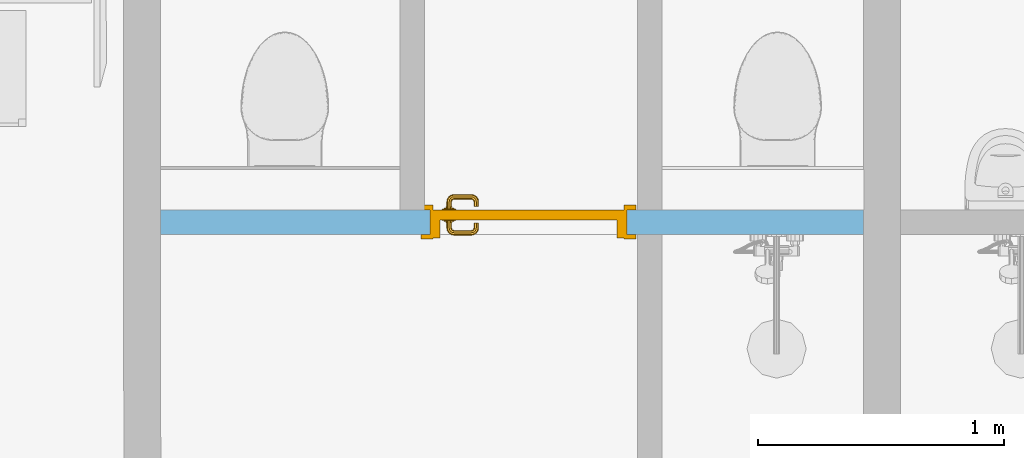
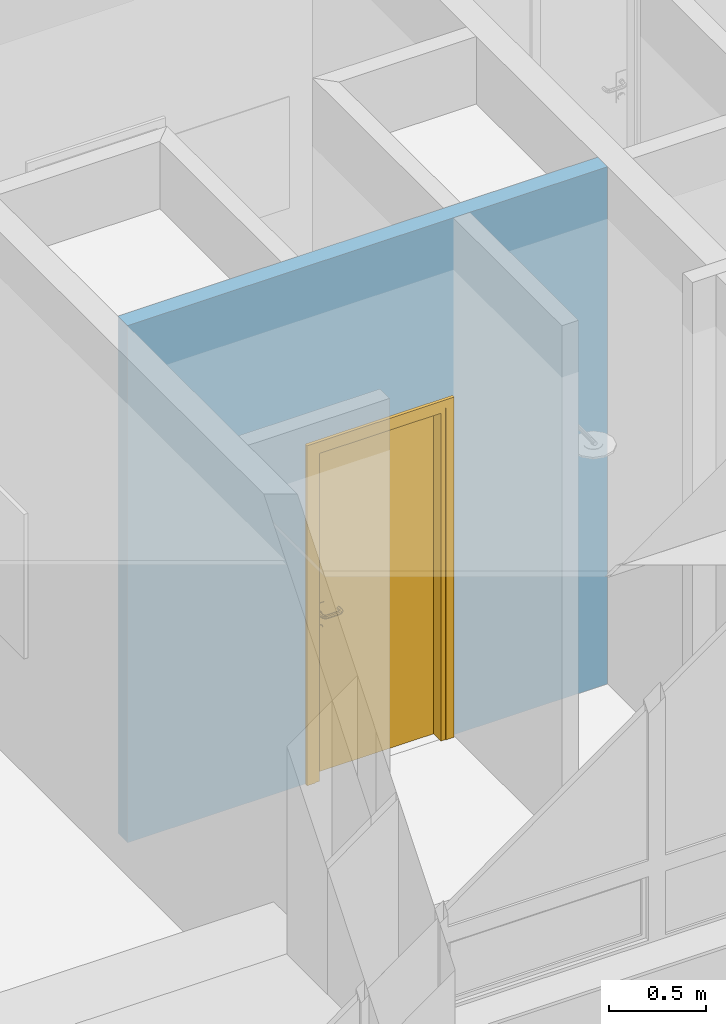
# One storey, part 58 of 194: 1 door, 1 opening, plus 1 element that does not belong to this part.
"""IFC2X3 building model written with IfcOpenShell, lengths in millimetres."""

from ifc_helpers import new_model, entity, si_unit, converted_unit, derived_unit, money_unit, direction, frame, origin_with_axes, origin_2d_with_axis, place, context, subcontext, project, spatial, polyline, rectangle, outline, extrude, open_shell, faceted_brep, surface_model, material, layer, layer_set, layer_usage, type_object, element, fill, save


model = new_model("IFC2X3")

# Units and contexts
model_context = context("Model", 3, precision=1e-05, world=origin_with_axes(), true_north=direction((0.0, 1.0)))
body_context = subcontext(model_context, "Body", "Model", "MODEL_VIEW")
ifc_project = project(units=[si_unit("LENGTHUNIT", "METRE", prefix="MILLI"), si_unit("AREAUNIT", "SQUARE_METRE"), si_unit("VOLUMEUNIT", "CUBIC_METRE"), converted_unit("PLANEANGLEUNIT", "DEGREE", entity("IfcPlaneAngleMeasure", 0.0174532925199), si_unit("PLANEANGLEUNIT", "RADIAN"), dimensions=[0, 0, 0, 0, 0, 0, 0]), si_unit("SOLIDANGLEUNIT", "STERADIAN"), money_unit("EUR"), converted_unit("TIMEUNIT", "Year", entity("IfcTimeMeasure", 31556926.0), si_unit("TIMEUNIT", "SECOND"), dimensions=[0, 0, 1, 0, 0, 0, 0]), si_unit("MASSUNIT", "GRAM", prefix="KILO"), si_unit("THERMODYNAMICTEMPERATUREUNIT", "DEGREE_CELSIUS"), si_unit("LUMINOUSINTENSITYUNIT", "LUMEN"), si_unit("ENERGYUNIT", "JOULE", prefix="MEGA"), derived_unit("THERMALCONDUCTANCEUNIT", [(si_unit("POWERUNIT", "WATT"), 1), (si_unit("LENGTHUNIT", "METRE"), -1), (si_unit("THERMODYNAMICTEMPERATUREUNIT", "KELVIN"), -1)]), derived_unit("SPECIFICHEATCAPACITYUNIT", [(si_unit("ENERGYUNIT", "JOULE"), 1), (si_unit("MASSUNIT", "GRAM", prefix="KILO"), -1), (si_unit("THERMODYNAMICTEMPERATUREUNIT", "KELVIN"), -1)]), derived_unit("MASSDENSITYUNIT", [(si_unit("MASSUNIT", "GRAM", prefix="KILO"), 1), (si_unit("VOLUMEUNIT", "CUBIC_METRE"), -1)])], contexts=[model_context])

# Site, building, storey
site_placement = place(None, origin_with_axes())
site = spatial("IfcSite", under=ifc_project, at=site_placement, Name="Site", CompositionType="ELEMENT")
building_placement = place(site_placement, origin_with_axes())
building = spatial("IfcBuilding", under=site, at=building_placement, Name="Building", CompositionType="ELEMENT")
storey_placement = place(building_placement, frame((0.0, 0.0, 3000.0), z_axis=(0.0, 0.0, 1.0), x_axis=(1.0, 0.0, 0.0)))
storey = spatial("IfcBuildingStorey", under=building, at=storey_placement, Name="2 KORRUS", CompositionType="ELEMENT", Elevation=3000.0)

# Wall, opening, door
ifc_material = material(Name="Kivi -Ol.Olev Konstruktsioon")
ifc_layer = layer(ifc_material, 100.0, ventilated="UNKNOWN")
ifc_layer_set = layer_set([ifc_layer], Name="ol.olev ss 100")
ifc_layer_usage = layer_usage(ifc_layer_set, "AXIS2", "POSITIVE", 0.0)
wall_type = type_object("IfcWallType", Name="SW - 022", PredefinedType="NOTDEFINED")
wall_placement = place(storey_placement, frame((70155.2857435, 37544.6064086, 0.0), z_axis=(0.0, 0.0, 1.0), x_axis=(1.0, 0.0, 0.0)))
wall = element("IfcWallStandardCase", 1, at=wall_placement, inside=storey, type_object=wall_type, material=ifc_layer_usage, Name="ol.olev ss 100", context=body_context, shape_type="SweptSolid", body=[
    extrude(outline(polyline([(-5.68434188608e-10, 0.0), (2852.14219087, 0.0), (2852.14219087, 100.0), (-0.078647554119, 100.0), (-5.68434188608e-10, 0.0)])), origin_with_axes(), (0.0, 0.0, 1.0), 3250.0),
])
opening_placement = place(wall_placement, frame((1493.06581529, 0.0, 0.0), z_axis=(0.0, 0.0, 1.0), x_axis=(1.0, 0.0, 0.0)))
opening = element("IfcOpeningElement", 2, at=opening_placement, cuts=wall, Name="Siseuks * Door 22", context=body_context, shape_type="SweptSolid", body=[
    extrude(rectangle(XDim=800.0, YDim=2100.0, at=origin_2d_with_axis()), frame((0.0, -100.0, 1050.0), z_axis=(0.0, 1.0, 0.0), x_axis=(1.0, 0.0, 0.0)), (0.0, 0.0, 1.0), 300.000000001),
    extrude(rectangle(XDim=874.0, YDim=2137.0, at=origin_2d_with_axis()), frame((0.0, 0.0, 1068.5), z_axis=(0.0, 1.0, 0.0), x_axis=(1.0, 0.0, 0.0)), (0.0, 0.0, -1.0), 100.0),
    extrude(rectangle(XDim=874.0, YDim=2137.0, at=origin_2d_with_axis()), frame((0.0, 100.0, 1068.5), z_axis=(0.0, -1.0, 0.0), x_axis=(1.0, 0.0, 0.0)), (0.0, 0.0, -1.0), 100.0),
])
door_style = type_object("IfcDoorStyle", Name="SU-B232   800×2\xa0100", ConstructionType="NOTDEFINED", OperationType="SINGLE_SWING_RIGHT", ParameterTakesPrecedence=False, Sizeable=False)
door_placement = place(opening_placement, frame((-400.0, 0.0, 0.0), z_axis=(0.0, 0.0, 1.0), x_axis=(1.0, 0.0, 0.0)))
door = element("IfcDoor", 3, at=door_placement, inside=storey, type_object=door_style, Name="Siseuks * Door 22", OverallHeight=2100.0, OverallWidth=800.0, context=body_context, shape_type="SurfaceModel", body=[
    faceted_brep([(-37.0, -18.9999999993, 0.0), (-37.0, 0.0, 0.0), (13.0, 0.0, 0.0), (13.0, -18.9999999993, 0.0), (-37.0, -18.9999999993, 2137.0), (-37.0, 0.0, 2137.0), (13.0, 0.0, 2087.0), (13.0, -18.9999999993, 2087.0)], [[[0, 1, 2, 3]], [[4, 5, 1, 0]], [[1, 5, 6, 2]], [[3, 2, 6, 7]], [[0, 3, 7, 4]], [[7, 6, 5, 4]]]),
    faceted_brep([(837.0, -18.9999999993, 2137.0), (837.0, 0.0, 2137.0), (787.0, 0.0, 2087.0), (787.0, -18.9999999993, 2087.0), (837.0, -18.9999999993, 0.0), (837.0, 0.0, 0.0), (787.0, 0.0, 0.0), (787.0, -18.9999999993, 0.0)], [[[0, 1, 2, 3]], [[4, 5, 1, 0]], [[1, 5, 6, 2]], [[3, 2, 6, 7]], [[0, 3, 7, 4]], [[7, 6, 5, 4]]]),
    faceted_brep([(-37.0, -18.9999999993, 2137.0), (-37.0, 0.0, 2137.0), (13.0, 0.0, 2087.0), (13.0, -18.9999999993, 2087.0), (837.0, -18.9999999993, 2137.0), (837.0, 0.0, 2137.0), (787.0, 0.0, 2087.0), (787.0, -18.9999999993, 2087.0)], [[[0, 1, 2, 3]], [[4, 5, 1, 0]], [[1, 5, 6, 2]], [[3, 2, 6, 7]], [[0, 3, 7, 4]], [[7, 6, 5, 4]]]),
    faceted_brep([(-37.0, 119.000000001, 0.0), (13.0, 119.000000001, 0.0), (13.0, 100.0, 0.0), (-37.0, 100.0, 0.0), (-37.0, 119.000000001, 2137.0), (13.0, 119.000000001, 2087.0), (13.0, 100.0, 2087.0), (-37.0, 100.0, 2137.0)], [[[0, 1, 2, 3]], [[0, 4, 5, 1]], [[1, 5, 6, 2]], [[3, 2, 6, 7]], [[4, 0, 3, 7]], [[5, 4, 7, 6]]]),
    faceted_brep([(837.0, 119.000000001, 2137.0), (787.0, 119.000000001, 2087.0), (787.0, 100.0, 2087.0), (837.0, 100.0, 2137.0), (837.0, 119.000000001, 0.0), (787.0, 119.000000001, 0.0), (787.0, 100.0, 0.0), (837.0, 100.0, 0.0)], [[[0, 1, 2, 3]], [[0, 4, 5, 1]], [[1, 5, 6, 2]], [[3, 2, 6, 7]], [[4, 0, 3, 7]], [[5, 4, 7, 6]]]),
    faceted_brep([(-37.0, 119.000000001, 2137.0), (13.0, 119.000000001, 2087.0), (13.0, 100.0, 2087.0), (-37.0, 100.0, 2137.0), (837.0, 119.000000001, 2137.0), (787.0, 119.000000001, 2087.0), (787.0, 100.0, 2087.0), (837.0, 100.0, 2137.0)], [[[0, 1, 2, 3]], [[0, 4, 5, 1]], [[1, 5, 6, 2]], [[3, 2, 6, 7]], [[4, 0, 3, 7]], [[5, 4, 7, 6]]]),
    faceted_brep([(40.0, 60.0000000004, 0.0), (40.0, 60.0000000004, 2060.0), (40.0, -14.9999999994, 2060.0), (40.0, -14.9999999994, 0.0), (28.0, 60.0000000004, 2060.0), (28.0, 60.0000000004, 0.0), (28.0, 100.0, 2060.0), (0.0, 100.0, 2060.0), (0.0, -14.9999999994, 2060.0), (0.0, -14.9999999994, 0.0), (0.0, 100.0, 0.0), (28.0, 100.0, 0.0)], [[[0, 1, 2, 3]], [[4, 1, 0, 5]], [[4, 6, 7, 8, 2, 1]], [[3, 2, 8, 9]], [[5, 0, 3, 9, 10, 11]], [[6, 4, 5, 11]], [[6, 11, 10, 7]], [[10, 9, 8, 7]]]),
    faceted_brep([(772.0, 60.0000000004, 2060.0), (760.0, 60.0000000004, 2060.0), (760.0, -14.9999999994, 2060.0), (800.0, -14.9999999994, 2060.0), (800.0, 100.0, 2060.0), (772.0, 100.0, 2060.0), (772.0, 60.0000000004, 0.0), (760.0, 60.0000000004, 0.0), (760.0, -14.9999999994, 0.0), (800.0, -14.9999999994, 0.0), (800.0, 100.0, 0.0), (772.0, 100.0, 0.0)], [[[0, 1, 2, 3, 4, 5]], [[1, 0, 6, 7]], [[1, 7, 8, 2]], [[3, 2, 8, 9]], [[4, 3, 9, 10]], [[11, 5, 4, 10]], [[0, 5, 11, 6]], [[6, 11, 10, 9, 8, 7]]]),
    faceted_brep([(28.0, 100.0, 2072.0), (28.0, 100.0, 2060.0), (0.0, 100.0, 2060.0), (0.0, 100.0, 2100.0), (800.0, 100.0, 2100.0), (800.0, 100.0, 2060.0), (772.0, 100.0, 2060.0), (772.0, 100.0, 2072.0), (28.0, 60.0000000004, 2072.0), (28.0, 60.0000000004, 2060.0), (40.0, 60.0000000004, 2060.0), (40.0, -14.9999999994, 2060.0), (0.0, -14.9999999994, 2060.0), (0.0, -14.9999999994, 2100.0), (800.0, -14.9999999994, 2100.0), (800.0, -14.9999999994, 2060.0), (772.0, 60.0000000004, 2060.0), (760.0, -14.9999999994, 2060.0), (760.0, 60.0000000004, 2060.0), (772.0, 60.0000000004, 2072.0)], [[[0, 1, 2, 3, 4, 5, 6, 7]], [[1, 0, 8, 9]], [[9, 10, 11, 12, 2, 1]], [[2, 12, 13, 3]], [[3, 13, 14, 4]], [[4, 14, 15, 5]], [[16, 6, 5, 15, 17, 18]], [[7, 6, 16, 19]], [[0, 7, 19, 8]], [[16, 18, 10, 9, 8, 19]], [[10, 18, 17, 11]], [[17, 15, 14, 13, 12, 11]]]),
    faceted_brep([(49.5, 60.0000000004, 1060.0), (49.5, 57.0000000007, 1060.0), (106.5, 57.0000000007, 1060.0), (106.5, 60.0000000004, 1060.0), (49.5, 60.0000000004, 870.0), (49.5, 57.0000000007, 870.0), (106.5, 57.0000000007, 870.0), (106.5, 60.0000000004, 870.0)], [[[0, 1, 2, 3]], [[4, 5, 1, 0]], [[1, 5, 6, 2]], [[3, 2, 6, 7]], [[0, 3, 7, 4]], [[7, 6, 5, 4]]]),
    surface_model("IfcShellBasedSurfaceModel", [(88.0, 47.0000000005, 1000.0), (88.0, 27.9849140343, 1000.0), (85.0710678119, 27.6964393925, 992.928932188), (85.0710678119, 47.0000000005, 992.928932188), (85.0710678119, 47.0000000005, 1007.07106781), (85.0710678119, 27.6964393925, 1007.07106781), (88.9422033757, 23.2481377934, 1000.0), (86.1832095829, 22.1053251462, 992.928932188), (78.0, 27.0, 990.0), (78.0, 47.0000000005, 990.0), (78.0, 47.0000000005, 1010.0), (78.0, 27.0, 1010.0), (86.1832095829, 22.1053251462, 1007.07106781), (91.0674625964, 20.0674625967, 1000.0), (88.9558201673, 17.955820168, 992.928932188), (79.5224093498, 19.3463313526, 990.0), (70.9289321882, 26.3035606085, 992.928932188), (70.9289321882, 47.0000000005, 992.928932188), (70.9289321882, 47.0000000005, 1007.07106781), (70.9289321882, 26.3035606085, 1007.07106781), (79.5224093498, 19.3463313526, 1010.0), (88.9558201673, 17.955820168, 1007.07106781), (94.248137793, 17.9422033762, 1000.0), (93.1053251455, 15.1832095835, 992.928932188), (83.8578643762, 12.8578643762, 990.0), (72.8616091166, 16.5873375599, 992.928932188), (68.0, 26.0150859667, 1000.0), (68.0, 47.0000000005, 1000.0), (72.8616091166, 16.5873375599, 1007.07106781), (83.8578643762, 12.8578643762, 1010.0), (93.1053251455, 15.1832095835, 1007.07106781), (98.9849140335, 17.0000000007, 1000.0), (98.696439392, 14.0710678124, 992.928932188), (90.3463313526, 8.52240935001, 990.0), (78.7599085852, 7.75990858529, 992.928932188), (70.1026153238, 15.4445249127, 1000.0), (78.7599085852, 7.75990858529, 1007.07106781), (90.3463313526, 8.52240935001, 1010.0), (98.696439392, 14.0710678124, 1007.07106781), (167.015085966, 17.0000000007, 1000.0), (167.303560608, 14.0710678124, 992.928932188), (98.0, 7.00000000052, 990.0), (87.5873375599, 1.86160911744, 992.928932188), (76.6482661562, 5.64826615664, 1000.0), (87.5873375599, 1.86160911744, 1007.07106781), (98.0, 7.00000000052, 1010.0), (167.303560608, 14.0710678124, 1007.07106781), (171.751862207, 17.9422033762, 1000.0), (172.894674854, 15.1832095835, 992.928932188), (168.0, 7.00000000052, 990.0), (97.303560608, -0.0710678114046, 992.928932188), (86.4445249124, -0.897384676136, 1000.0), (97.303560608, -0.0710678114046, 1007.07106781), (168.0, 7.00000000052, 1010.0), (172.894674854, 15.1832095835, 1007.07106781), (174.932537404, 20.0674625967, 1000.0), (177.044179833, 17.955820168, 992.928932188), (175.653668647, 8.52240935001, 990.0), (168.696439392, -0.0710678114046, 992.928932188), (97.0150859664, -2.9999999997, 1000.0), (168.696439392, -0.0710678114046, 1007.07106781), (175.653668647, 8.52240935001, 1010.0), (177.044179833, 17.955820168, 1007.07106781), (177.057796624, 23.2481377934, 1000.0), (179.816790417, 22.1053251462, 992.928932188), (182.142135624, 12.8578643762, 990.0), (178.41266244, 1.86160911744, 992.928932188), (168.984914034, -2.9999999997, 1000.0), (178.41266244, 1.86160911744, 1007.07106781), (182.142135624, 12.8578643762, 1010.0), (179.816790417, 22.1053251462, 1007.07106781), (178.0, 27.9849140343, 1000.0), (180.928932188, 27.6964393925, 992.928932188), (186.47759065, 19.3463313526, 990.0), (187.240091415, 7.75990858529, 992.928932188), (179.555475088, -0.897384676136, 1000.0), (187.240091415, 7.75990858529, 1007.07106781), (186.47759065, 19.3463313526, 1010.0), (180.928932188, 27.6964393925, 1007.07106781), (178.0, 47.0000000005, 1000.0), (180.928932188, 47.0000000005, 992.928932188), (188.0, 27.0, 990.0), (193.138390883, 16.5873375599, 992.928932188), (189.351733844, 5.64826615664, 1000.0), (193.138390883, 16.5873375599, 1007.07106781), (188.0, 27.0, 1010.0), (180.928932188, 47.0000000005, 1007.07106781), (188.0, 47.0000000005, 1010.0), (195.071067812, 47.0000000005, 1007.07106781), (198.0, 47.0000000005, 1000.0), (195.071067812, 47.0000000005, 992.928932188), (188.0, 47.0000000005, 990.0), (195.071067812, 26.3035606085, 992.928932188), (195.897384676, 15.4445249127, 1000.0), (195.071067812, 26.3035606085, 1007.07106781), (198.0, 26.0150859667, 1000.0)], [open_shell([[[0, 1, 2, 3]], [[4, 5, 1, 0]], [[1, 6, 7, 2]], [[3, 2, 8, 9]], [[10, 11, 5, 4]], [[5, 12, 6, 1]], [[6, 13, 14, 7]], [[2, 7, 15, 8]], [[9, 8, 16, 17]], [[18, 19, 11, 10]], [[11, 20, 12, 5]], [[12, 21, 13, 6]], [[13, 22, 23, 14]], [[7, 14, 24, 15]], [[8, 15, 25, 16]], [[17, 16, 26, 27]], [[27, 26, 19, 18]], [[19, 28, 20, 11]], [[20, 29, 21, 12]], [[21, 30, 22, 13]], [[22, 31, 32, 23]], [[14, 23, 33, 24]], [[15, 24, 34, 25]], [[16, 25, 35, 26]], [[26, 35, 28, 19]], [[28, 36, 29, 20]], [[29, 37, 30, 21]], [[30, 38, 31, 22]], [[31, 39, 40, 32]], [[23, 32, 41, 33]], [[24, 33, 42, 34]], [[25, 34, 43, 35]], [[35, 43, 36, 28]], [[36, 44, 37, 29]], [[37, 45, 38, 30]], [[38, 46, 39, 31]], [[39, 47, 48, 40]], [[32, 40, 49, 41]], [[33, 41, 50, 42]], [[34, 42, 51, 43]], [[43, 51, 44, 36]], [[44, 52, 45, 37]], [[45, 53, 46, 38]], [[46, 54, 47, 39]], [[47, 55, 56, 48]], [[40, 48, 57, 49]], [[41, 49, 58, 50]], [[42, 50, 59, 51]], [[51, 59, 52, 44]], [[52, 60, 53, 45]], [[53, 61, 54, 46]], [[54, 62, 55, 47]], [[55, 63, 64, 56]], [[48, 56, 65, 57]], [[49, 57, 66, 58]], [[50, 58, 67, 59]], [[59, 67, 60, 52]], [[60, 68, 61, 53]], [[61, 69, 62, 54]], [[62, 70, 63, 55]], [[63, 71, 72, 64]], [[56, 64, 73, 65]], [[57, 65, 74, 66]], [[58, 66, 75, 67]], [[67, 75, 68, 60]], [[68, 76, 69, 61]], [[69, 77, 70, 62]], [[70, 78, 71, 63]], [[71, 79, 80, 72]], [[64, 72, 81, 73]], [[65, 73, 82, 74]], [[66, 74, 83, 75]], [[75, 83, 76, 68]], [[76, 84, 77, 69]], [[77, 85, 78, 70]], [[78, 86, 79, 71]], [[79, 86, 87, 88, 89, 90, 91, 80]], [[72, 80, 91, 81]], [[73, 81, 92, 82]], [[74, 82, 93, 83]], [[83, 93, 84, 76]], [[84, 94, 85, 77]], [[85, 87, 86, 78]], [[94, 88, 87, 85]], [[95, 89, 88, 94]], [[92, 90, 89, 95]], [[81, 91, 90, 92]], [[82, 92, 95, 93]], [[93, 95, 94, 84]]])]),
    faceted_brep([(88.3923048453, 47.0000000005, 994.0), (89.2583302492, 57.0000000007, 993.5), (91.0, 57.0000000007, 1000.0), (90.0, 47.0000000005, 1000.0), (83.9999999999, 47.0000000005, 989.607695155), (84.4999999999, 57.0000000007, 988.741669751), (78.0, 57.0000000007, 987.0), (71.5, 57.0000000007, 988.741669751), (66.7416697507, 57.0000000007, 993.5), (64.9999999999, 57.0000000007, 1000.0), (66.7416697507, 57.0000000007, 1006.5), (71.5, 57.0000000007, 1011.25833025), (78.0, 57.0000000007, 1013.0), (84.4999999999, 57.0000000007, 1011.25833025), (89.2583302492, 57.0000000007, 1006.5), (88.3923048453, 47.0000000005, 1006.0), (83.9999999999, 47.0000000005, 1010.39230485), (78.0, 47.0000000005, 1012.0), (72.0, 47.0000000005, 1010.39230485), (67.6076951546, 47.0000000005, 1006.0), (66.0, 47.0000000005, 1000.0), (67.6076951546, 47.0000000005, 994.0), (72.0, 47.0000000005, 989.607695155), (78.0, 47.0000000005, 988.0)], [[[0, 1, 2, 3]], [[4, 5, 1, 0]], [[2, 1, 5, 6, 7, 8, 9, 10, 11, 12, 13, 14]], [[3, 2, 14, 15]], [[3, 15, 16, 17, 18, 19, 20, 21, 22, 23, 4, 0]], [[23, 6, 5, 4]], [[22, 7, 6, 23]], [[21, 8, 7, 22]], [[20, 9, 8, 21]], [[19, 10, 9, 20]], [[18, 11, 10, 19]], [[17, 12, 11, 18]], [[16, 13, 12, 17]], [[15, 14, 13, 16]]]),
    faceted_brep([(95.3205080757, 53.0000000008, 895.0), (97.0525588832, 57.0000000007, 894.0), (100.0, 57.0000000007, 905.0), (98.0, 53.0000000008, 905.0), (88.0, 53.0000000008, 887.679491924), (88.9999999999, 57.0000000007, 885.947441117), (78.0, 57.0000000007, 883.0), (67.0, 57.0000000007, 885.947441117), (58.9474411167, 57.0000000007, 894.0), (55.9999999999, 57.0000000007, 905.0), (58.9474411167, 57.0000000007, 916.0), (67.0, 57.0000000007, 924.052558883), (78.0, 57.0000000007, 927.0), (88.9999999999, 57.0000000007, 924.052558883), (97.0525588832, 57.0000000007, 916.0), (95.3205080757, 53.0000000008, 915.0), (88.0, 53.0000000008, 922.320508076), (78.0, 53.0000000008, 925.0), (68.0, 53.0000000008, 922.320508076), (60.6794919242, 53.0000000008, 915.0), (58.0, 53.0000000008, 905.0), (60.6794919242, 53.0000000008, 895.0), (68.0, 53.0000000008, 887.679491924), (78.0, 53.0000000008, 885.0)], [[[0, 1, 2, 3]], [[4, 5, 1, 0]], [[2, 1, 5, 6, 7, 8, 9, 10, 11, 12, 13, 14]], [[3, 2, 14, 15]], [[3, 15, 16, 17, 18, 19, 20, 21, 22, 23, 4, 0]], [[23, 6, 5, 4]], [[22, 7, 6, 23]], [[21, 8, 7, 22]], [[20, 9, 8, 21]], [[19, 10, 9, 20]], [[18, 11, 10, 19]], [[17, 12, 11, 18]], [[16, 13, 12, 17]], [[15, 14, 13, 16]]]),
    faceted_brep([(82.9497474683, 51.0000000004, 909.050252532), (83.6568542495, 53.0000000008, 908.343145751), (86.0, 53.0000000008, 914.0), (84.9999999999, 51.0000000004, 914.0), (78.0, 51.0000000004, 907.0), (78.0, 53.0000000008, 906.0), (72.3431457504, 53.0000000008, 908.343145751), (69.9999999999, 53.0000000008, 914.0), (72.3431457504, 53.0000000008, 919.656854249), (78.0, 53.0000000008, 922.0), (83.6568542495, 53.0000000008, 919.656854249), (82.9497474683, 51.0000000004, 918.949747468), (78.0, 51.0000000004, 921.0), (73.0502525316, 51.0000000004, 918.949747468), (71.0, 51.0000000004, 914.0), (73.0502525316, 51.0000000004, 909.050252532)], [[[0, 1, 2, 3]], [[4, 5, 1, 0]], [[2, 1, 5, 6, 7, 8, 9, 10]], [[3, 2, 10, 11]], [[3, 11, 12, 13, 14, 15, 4, 0]], [[15, 6, 5, 4]], [[14, 7, 6, 15]], [[13, 8, 7, 14]], [[12, 9, 8, 13]], [[11, 10, 9, 12]]]),
    faceted_brep([(49.5, 100.0, 1060.0), (106.5, 100.0, 1060.0), (106.5, 103.0, 1060.0), (49.5, 103.0, 1060.0), (49.5, 100.0, 870.0), (106.5, 100.0, 870.0), (106.5, 103.0, 870.0), (49.5, 103.0, 870.0)], [[[0, 1, 2, 3]], [[0, 4, 5, 1]], [[1, 5, 6, 2]], [[3, 2, 6, 7]], [[4, 0, 3, 7]], [[5, 4, 7, 6]]]),
    surface_model("IfcShellBasedSurfaceModel", [(88.0, 113.0, 1000.0), (85.0710678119, 113.0, 992.928932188), (85.0710678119, 132.303560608, 992.928932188), (88.0, 132.015085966, 1000.0), (78.0, 113.0, 990.0), (78.0, 133.000000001, 990.0), (86.1832095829, 137.894674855, 992.928932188), (88.9422033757, 136.751862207, 1000.0), (85.0710678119, 113.0, 1007.07106781), (85.0710678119, 132.303560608, 1007.07106781), (70.9289321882, 113.0, 992.928932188), (70.9289321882, 133.696439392, 992.928932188), (79.5224093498, 140.653668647, 990.0), (88.9558201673, 142.044179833, 992.928932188), (91.0674625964, 139.932537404, 1000.0), (86.1832095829, 137.894674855, 1007.07106781), (78.0, 113.0, 1010.0), (78.0, 133.000000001, 1010.0), (68.0, 113.0, 1000.0), (68.0, 133.984914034, 1000.0), (72.8616091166, 143.412662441, 992.928932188), (83.8578643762, 147.142135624, 990.0), (93.1053251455, 144.816790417, 992.928932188), (94.248137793, 142.057796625, 1000.0), (88.9558201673, 142.044179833, 1007.07106781), (79.5224093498, 140.653668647, 1010.0), (70.9289321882, 113.0, 1007.07106781), (70.9289321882, 133.696439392, 1007.07106781), (70.1026153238, 144.555475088, 1000.0), (78.7599085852, 152.240091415, 992.928932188), (90.3463313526, 151.477590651, 990.0), (98.696439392, 145.928932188, 992.928932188), (98.9849140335, 143.0, 1000.0), (93.1053251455, 144.816790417, 1007.07106781), (83.8578643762, 147.142135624, 1010.0), (72.8616091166, 143.412662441, 1007.07106781), (76.6482661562, 154.351733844, 1000.0), (87.5873375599, 158.138390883, 992.928932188), (98.0, 153.0, 990.0), (167.303560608, 145.928932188, 992.928932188), (167.015085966, 143.0, 1000.0), (98.696439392, 145.928932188, 1007.07106781), (90.3463313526, 151.477590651, 1010.0), (78.7599085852, 152.240091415, 1007.07106781), (86.4445249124, 160.897384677, 1000.0), (97.303560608, 160.071067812, 992.928932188), (168.0, 153.0, 990.0), (172.894674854, 144.816790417, 992.928932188), (171.751862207, 142.057796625, 1000.0), (167.303560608, 145.928932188, 1007.07106781), (98.0, 153.0, 1010.0), (87.5873375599, 158.138390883, 1007.07106781), (97.0150859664, 163.0, 1000.0), (168.696439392, 160.071067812, 992.928932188), (175.653668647, 151.477590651, 990.0), (177.044179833, 142.044179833, 992.928932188), (174.932537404, 139.932537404, 1000.0), (172.894674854, 144.816790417, 1007.07106781), (168.0, 153.0, 1010.0), (97.303560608, 160.071067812, 1007.07106781), (168.984914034, 163.0, 1000.0), (178.41266244, 158.138390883, 992.928932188), (182.142135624, 147.142135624, 990.0), (179.816790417, 137.894674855, 992.928932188), (177.057796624, 136.751862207, 1000.0), (177.044179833, 142.044179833, 1007.07106781), (175.653668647, 151.477590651, 1010.0), (168.696439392, 160.071067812, 1007.07106781), (179.555475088, 160.897384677, 1000.0), (187.240091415, 152.240091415, 992.928932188), (186.47759065, 140.653668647, 990.0), (180.928932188, 132.303560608, 992.928932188), (178.0, 132.015085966, 1000.0), (179.816790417, 137.894674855, 1007.07106781), (182.142135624, 147.142135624, 1010.0), (178.41266244, 158.138390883, 1007.07106781), (189.351733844, 154.351733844, 1000.0), (193.138390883, 143.412662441, 992.928932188), (188.0, 133.000000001, 990.0), (180.928932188, 113.0, 992.928932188), (178.0, 113.0, 1000.0), (180.928932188, 132.303560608, 1007.07106781), (186.47759065, 140.653668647, 1010.0), (187.240091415, 152.240091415, 1007.07106781), (195.897384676, 144.555475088, 1000.0), (195.071067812, 133.696439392, 992.928932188), (188.0, 113.0, 990.0), (195.071067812, 113.0, 992.928932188), (198.0, 113.0, 1000.0), (195.071067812, 113.0, 1007.07106781), (188.0, 113.0, 1010.0), (180.928932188, 113.0, 1007.07106781), (188.0, 133.000000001, 1010.0), (193.138390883, 143.412662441, 1007.07106781), (198.0, 133.984914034, 1000.0), (195.071067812, 133.696439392, 1007.07106781)], [open_shell([[[0, 1, 2, 3]], [[1, 4, 5, 2]], [[3, 2, 6, 7]], [[8, 0, 3, 9]], [[4, 10, 11, 5]], [[2, 5, 12, 6]], [[7, 6, 13, 14]], [[9, 3, 7, 15]], [[16, 8, 9, 17]], [[10, 18, 19, 11]], [[5, 11, 20, 12]], [[6, 12, 21, 13]], [[14, 13, 22, 23]], [[15, 7, 14, 24]], [[17, 9, 15, 25]], [[26, 16, 17, 27]], [[18, 26, 27, 19]], [[11, 19, 28, 20]], [[12, 20, 29, 21]], [[13, 21, 30, 22]], [[23, 22, 31, 32]], [[24, 14, 23, 33]], [[25, 15, 24, 34]], [[27, 17, 25, 35]], [[19, 27, 35, 28]], [[20, 28, 36, 29]], [[21, 29, 37, 30]], [[22, 30, 38, 31]], [[32, 31, 39, 40]], [[33, 23, 32, 41]], [[34, 24, 33, 42]], [[35, 25, 34, 43]], [[28, 35, 43, 36]], [[29, 36, 44, 37]], [[30, 37, 45, 38]], [[31, 38, 46, 39]], [[40, 39, 47, 48]], [[41, 32, 40, 49]], [[42, 33, 41, 50]], [[43, 34, 42, 51]], [[36, 43, 51, 44]], [[37, 44, 52, 45]], [[38, 45, 53, 46]], [[39, 46, 54, 47]], [[48, 47, 55, 56]], [[49, 40, 48, 57]], [[50, 41, 49, 58]], [[51, 42, 50, 59]], [[44, 51, 59, 52]], [[45, 52, 60, 53]], [[46, 53, 61, 54]], [[47, 54, 62, 55]], [[56, 55, 63, 64]], [[57, 48, 56, 65]], [[58, 49, 57, 66]], [[59, 50, 58, 67]], [[52, 59, 67, 60]], [[53, 60, 68, 61]], [[54, 61, 69, 62]], [[55, 62, 70, 63]], [[64, 63, 71, 72]], [[65, 56, 64, 73]], [[66, 57, 65, 74]], [[67, 58, 66, 75]], [[60, 67, 75, 68]], [[61, 68, 76, 69]], [[62, 69, 77, 70]], [[63, 70, 78, 71]], [[72, 71, 79, 80]], [[73, 64, 72, 81]], [[74, 65, 73, 82]], [[75, 66, 74, 83]], [[68, 75, 83, 76]], [[69, 76, 84, 77]], [[70, 77, 85, 78]], [[71, 78, 86, 79]], [[80, 79, 86, 87, 88, 89, 90, 91]], [[81, 72, 80, 91]], [[82, 73, 81, 92]], [[83, 74, 82, 93]], [[76, 83, 93, 84]], [[77, 84, 94, 85]], [[78, 85, 87, 86]], [[85, 94, 88, 87]], [[94, 95, 89, 88]], [[95, 92, 90, 89]], [[92, 81, 91, 90]], [[93, 82, 92, 95]], [[84, 93, 95, 94]]])]),
    faceted_brep([(88.3923048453, 113.0, 994.0), (90.0, 113.0, 1000.0), (91.0, 103.0, 1000.0), (89.2583302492, 103.0, 993.5), (83.9999999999, 113.0, 989.607695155), (78.0, 113.0, 988.0), (72.0, 113.0, 989.607695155), (67.6076951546, 113.0, 994.0), (66.0, 113.0, 1000.0), (67.6076951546, 113.0, 1006.0), (72.0, 113.0, 1010.39230485), (78.0, 113.0, 1012.0), (83.9999999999, 113.0, 1010.39230485), (88.3923048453, 113.0, 1006.0), (89.2583302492, 103.0, 1006.5), (84.4999999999, 103.0, 1011.25833025), (78.0, 103.0, 1013.0), (71.5, 103.0, 1011.25833025), (66.7416697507, 103.0, 1006.5), (64.9999999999, 103.0, 1000.0), (66.7416697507, 103.0, 993.5), (71.5, 103.0, 988.741669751), (78.0, 103.0, 987.0), (84.4999999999, 103.0, 988.741669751)], [[[0, 1, 2, 3]], [[1, 0, 4, 5, 6, 7, 8, 9, 10, 11, 12, 13]], [[1, 13, 14, 2]], [[2, 14, 15, 16, 17, 18, 19, 20, 21, 22, 23, 3]], [[4, 0, 3, 23]], [[5, 4, 23, 22]], [[6, 5, 22, 21]], [[7, 6, 21, 20]], [[8, 7, 20, 19]], [[9, 8, 19, 18]], [[10, 9, 18, 17]], [[11, 10, 17, 16]], [[12, 11, 16, 15]], [[13, 12, 15, 14]]]),
    faceted_brep([(95.3205080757, 107.0, 895.0), (98.0, 107.0, 905.0), (100.0, 103.0, 905.0), (97.0525588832, 103.0, 894.0), (88.0, 107.0, 887.679491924), (78.0, 107.0, 885.0), (68.0, 107.0, 887.679491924), (60.6794919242, 107.0, 895.0), (58.0, 107.0, 905.0), (60.6794919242, 107.0, 915.0), (68.0, 107.0, 922.320508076), (78.0, 107.0, 925.0), (88.0, 107.0, 922.320508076), (95.3205080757, 107.0, 915.0), (97.0525588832, 103.0, 916.0), (88.9999999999, 103.0, 924.052558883), (78.0, 103.0, 927.0), (67.0, 103.0, 924.052558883), (58.9474411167, 103.0, 916.0), (55.9999999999, 103.0, 905.0), (58.9474411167, 103.0, 894.0), (67.0, 103.0, 885.947441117), (78.0, 103.0, 883.0), (88.9999999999, 103.0, 885.947441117)], [[[0, 1, 2, 3]], [[1, 0, 4, 5, 6, 7, 8, 9, 10, 11, 12, 13]], [[1, 13, 14, 2]], [[2, 14, 15, 16, 17, 18, 19, 20, 21, 22, 23, 3]], [[4, 0, 3, 23]], [[5, 4, 23, 22]], [[6, 5, 22, 21]], [[7, 6, 21, 20]], [[8, 7, 20, 19]], [[9, 8, 19, 18]], [[10, 9, 18, 17]], [[11, 10, 17, 16]], [[12, 11, 16, 15]], [[13, 12, 15, 14]]]),
    faceted_brep([(82.9497474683, 109.0, 909.050252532), (84.9999999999, 109.0, 914.0), (86.0, 107.0, 914.0), (83.6568542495, 107.0, 908.343145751), (78.0, 109.0, 907.0), (73.0502525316, 109.0, 909.050252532), (71.0, 109.0, 914.0), (73.0502525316, 109.0, 918.949747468), (78.0, 109.0, 921.0), (82.9497474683, 109.0, 918.949747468), (83.6568542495, 107.0, 919.656854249), (78.0, 107.0, 922.0), (72.3431457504, 107.0, 919.656854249), (69.9999999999, 107.0, 914.0), (72.3431457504, 107.0, 908.343145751), (78.0, 107.0, 906.0)], [[[0, 1, 2, 3]], [[1, 0, 4, 5, 6, 7, 8, 9]], [[1, 9, 10, 2]], [[2, 10, 11, 12, 13, 14, 15, 3]], [[4, 0, 3, 15]], [[5, 4, 15, 14]], [[6, 5, 14, 13]], [[7, 6, 13, 12]], [[8, 7, 12, 11]], [[9, 8, 11, 10]]]),
    faceted_brep([(772.0, 100.0, 0.0), (772.0, 60.0000000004, 0.0), (28.0, 60.0000000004, 0.0), (28.0, 100.0, 0.0), (772.0, 100.0, 2072.0), (772.0, 60.0000000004, 2072.0), (28.0, 60.0000000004, 2072.0), (28.0, 100.0, 2072.0)], [[[0, 1, 2, 3]], [[4, 5, 1, 0]], [[1, 5, 6, 2]], [[3, 2, 6, 7]], [[0, 3, 7, 4]], [[7, 6, 5, 4]]]),
])
fill(opening, door)

save(model, "model.ifc")
